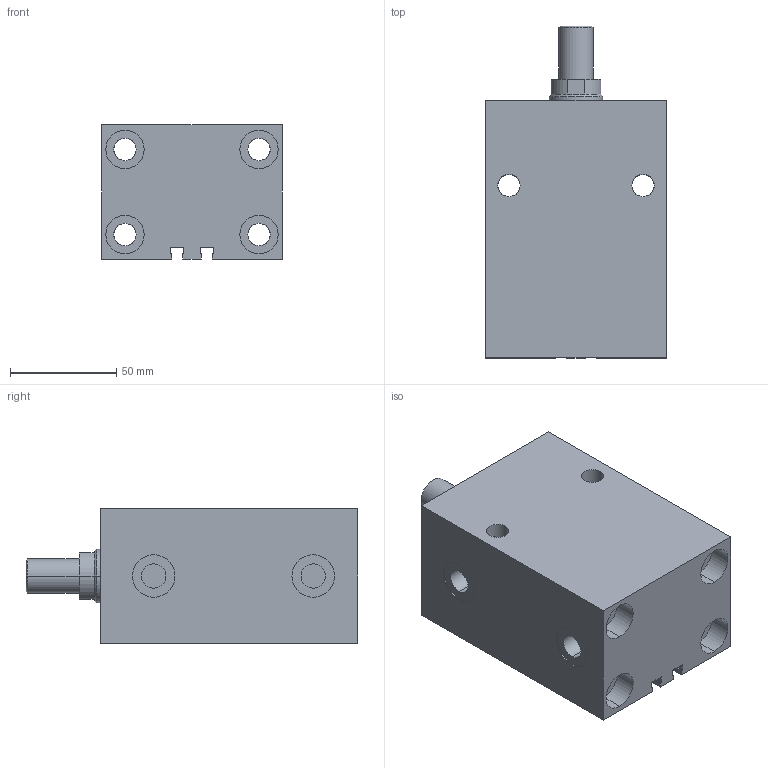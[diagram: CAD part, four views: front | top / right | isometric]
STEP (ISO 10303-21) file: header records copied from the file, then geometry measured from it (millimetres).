
FILE_DESCRIPTION (( 'STEP AP203' ), '1' );
FILE_NAME ('GERMA_Blockzylinder_700-040-050-A.STEP', '2016-07-23T10:08:50', ( '' ), ( '' ), 'SwSTEP 2.0', 'SolidWorks 2015', '' );
FILE_SCHEMA (( 'CONFIG_CONTROL_DESIGN' ));
Length unit declared in the file: millimetre
Products named in the file (3): GH-700-040_GH-700-040-050; Kolben_MT 70x-040_Kolben_MT DU.40-Hub50-AG; GERMA_Blockzylinder_700-040-050-A
Assembly tree (2 placements, depth 2):
  GERMA_Blockzylinder_700-040-050-A
    GH-700-040_GH-700-040-050
    Kolben_MT 70x-040_Kolben_MT DU.40-Hub50-AG
Bounding box: 85 x 156 x 63 mm (x, y, z)
Volume: 543504 mm3; surface area: 97175 mm2
Topology: 2 solids, 2 shells, 132 faces, 312 edges, 193 vertices
Faces by surface type: cylinder 73, plane 47, cone 12
Entity records: 4106 total; most frequent: CARTESIAN_POINT 734, DIRECTION 675, ORIENTED_EDGE 616, EDGE_CURVE 308, AXIS2_PLACEMENT_3D 262, VERTEX_POINT 193, EDGE_LOOP 165, LINE 151
